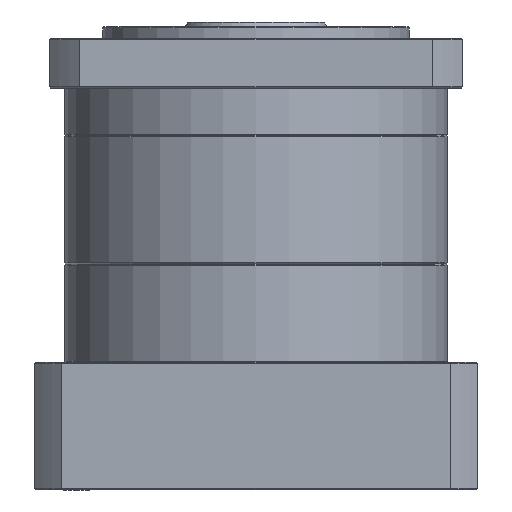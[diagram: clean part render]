
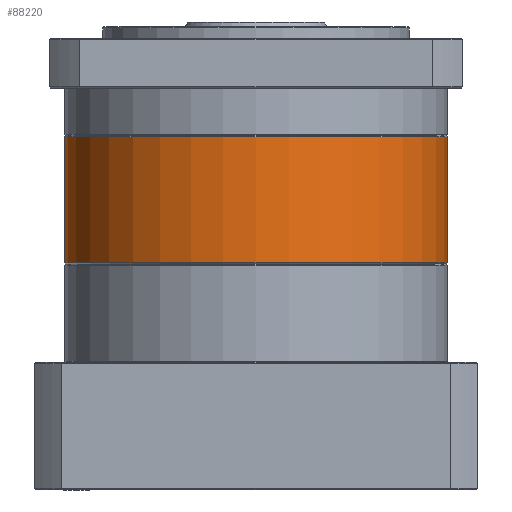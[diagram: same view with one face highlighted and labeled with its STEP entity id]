
A CAD part, front view. The second image highlights one B-rep face of the part: STEP entity #88220.
In plain terms, the highlighted cylindrical face has radius 81 mm (diameter 162 mm), a partial arc.
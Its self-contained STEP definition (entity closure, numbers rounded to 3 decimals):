
#141 = LINE ( 'NONE', #31662, #54160 ) ;
#4549 = EDGE_CURVE ( 'NONE', #24828, #74938, #85963, .T. ) ;
#7308 = ORIENTED_EDGE ( 'NONE', *, *, #69146, .F. ) ;
#8502 = DIRECTION ( 'NONE',  ( 0., 1., 0. ) ) ;
#10628 = DIRECTION ( 'NONE',  ( 1., 0., 0. ) ) ;
#11771 = DIRECTION ( 'NONE',  ( 1., 0., 0. ) ) ;
#13792 = CARTESIAN_POINT ( 'NONE',  ( 248.887, 106.757, 73.725 ) ) ;
#15444 = CARTESIAN_POINT ( 'NONE',  ( 167.887, 106.757, 74.225 ) ) ;
#19059 = ORIENTED_EDGE ( 'NONE', *, *, #67565, .F. ) ;
#20077 = DIRECTION ( 'NONE',  ( 0., 0., 1. ) ) ;
#22063 = CYLINDRICAL_SURFACE ( 'NONE', #54805, 81. ) ;
#24331 = CARTESIAN_POINT ( 'NONE',  ( 248.887, 106.757, 74.225 ) ) ;
#24828 = VERTEX_POINT ( 'NONE', #26802 ) ;
#26802 = CARTESIAN_POINT ( 'NONE',  ( 167.887, 25.757, 74.225 ) ) ;
#29074 = EDGE_CURVE ( 'NONE', #64416, #59814, #91976, .T. ) ;
#30073 = VECTOR ( 'NONE', #20077, 1000. ) ;
#31662 = CARTESIAN_POINT ( 'NONE',  ( 86.887, 106.757, 73.725 ) ) ;
#36160 = DIRECTION ( 'NONE',  ( 0., 0., -1. ) ) ;
#37812 = FACE_OUTER_BOUND ( 'NONE', #58749, .T. ) ;
#39760 = EDGE_CURVE ( 'NONE', #59814, #69370, #64576, .T. ) ;
#49333 = CARTESIAN_POINT ( 'NONE',  ( 167.887, 106.757, 74.225 ) ) ;
#49505 = ORIENTED_EDGE ( 'NONE', *, *, #4549, .F. ) ;
#51353 = ORIENTED_EDGE ( 'NONE', *, *, #29074, .T. ) ;
#54160 = VECTOR ( 'NONE', #89200, 1000. ) ;
#54805 = AXIS2_PLACEMENT_3D ( 'NONE', #60315, #60630, #10628 ) ;
#55274 = CARTESIAN_POINT ( 'NONE',  ( 86.887, 106.757, 127.725 ) ) ;
#55965 = AXIS2_PLACEMENT_3D ( 'NONE', #76171, #90649, #11771 ) ;
#56601 = DIRECTION ( 'NONE',  ( 0., 0., -1. ) ) ;
#58749 = EDGE_LOOP ( 'NONE', ( #7308, #49505, #19059, #51353, #90396 ) ) ;
#59814 = VERTEX_POINT ( 'NONE', #66979 ) ;
#60315 = CARTESIAN_POINT ( 'NONE',  ( 167.887, 106.757, 73.725 ) ) ;
#60630 = DIRECTION ( 'NONE',  ( 0., 0., 1. ) ) ;
#64416 = VERTEX_POINT ( 'NONE', #24331 ) ;
#64576 = CIRCLE ( 'NONE', #55965, 81. ) ;
#66979 = CARTESIAN_POINT ( 'NONE',  ( 248.887, 106.757, 127.725 ) ) ;
#67565 = EDGE_CURVE ( 'NONE', #64416, #24828, #80402, .T. ) ;
#69146 = EDGE_CURVE ( 'NONE', #74938, #69370, #141, .T. ) ;
#69370 = VERTEX_POINT ( 'NONE', #55274 ) ;
#70357 = CARTESIAN_POINT ( 'NONE',  ( 86.887, 106.757, 74.225 ) ) ;
#74938 = VERTEX_POINT ( 'NONE', #70357 ) ;
#76171 = CARTESIAN_POINT ( 'NONE',  ( 167.887, 106.757, 127.725 ) ) ;
#77643 = DIRECTION ( 'NONE',  ( 0., 1., 0. ) ) ;
#78697 = AXIS2_PLACEMENT_3D ( 'NONE', #49333, #56601, #77643 ) ;
#80402 = CIRCLE ( 'NONE', #78697, 81. ) ;
#80985 = AXIS2_PLACEMENT_3D ( 'NONE', #15444, #36160, #8502 ) ;
#85963 = CIRCLE ( 'NONE', #80985, 81. ) ;
#88220 = ADVANCED_FACE ( 'NONE', ( #37812 ), #22063, .T. ) ;
#89200 = DIRECTION ( 'NONE',  ( 0., 0., 1. ) ) ;
#90396 = ORIENTED_EDGE ( 'NONE', *, *, #39760, .T. ) ;
#90649 = DIRECTION ( 'NONE',  ( 0., 0., -1. ) ) ;
#91976 = LINE ( 'NONE', #13792, #30073 ) ;
